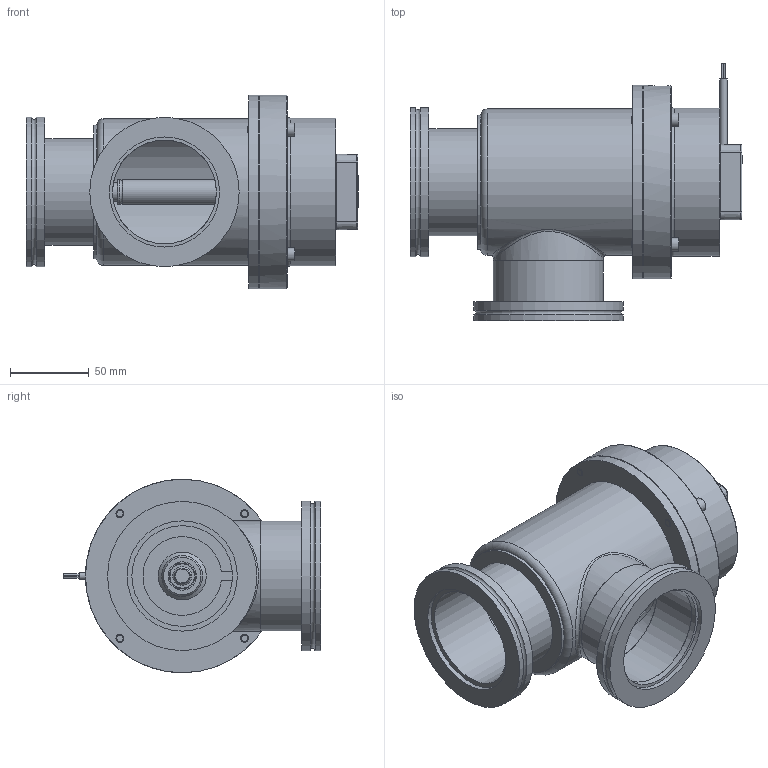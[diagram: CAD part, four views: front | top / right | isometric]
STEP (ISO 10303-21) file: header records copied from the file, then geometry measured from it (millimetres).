
FILE_DESCRIPTION(/* description */ (''),/* implementation_level */ '2;1');
FILE_NAME(/* name */ '1517157277_203.stp',/* time_stamp */ '2013-07-25T07:51:54+02:00',/* author */ (''),/* organization */ (''),/* preprocessor_version */ 'ST-DEVELOPER v11',/* originating_system */ 'SIEMENS PLM Software NX 7.5',/* authorisation */ '');
FILE_SCHEMA (('AP203_CONFIGURATION_CONTROLLED_3D_DESIGN_OF_MECHANICAL_PARTS_AND_ASSEMBLIES_MIM_LF'));
Length unit declared in the file: millimetre
Products named in the file (16): 559132; 547308_17911ID; 547290; 521644; 547368_19967ID; 239888_6.1; 233359; 236204_1.1; 254383; 259415.2; 243267.7; N-6013-443.2; 224796.1; 547281_MODEL; 402922; 703891
Assembly tree (20 placements, depth 3):
  703891
    224796.1  x4
    N-6013-443.2  x2
    243267.7
    259415.2
    402922
      236204_1.1  x2
      233359
      239888_6.1
    254383
    547281_MODEL
      547368_19967ID
      521644
      547290
      547308_17911ID
      559132
Bounding box: 211 x 163.57 x 123 mm (x, y, z)
Volume: 459414.9 mm3; surface area: 232057 mm2
Topology: 26 solids, 26 shells, 586 faces, 1401 edges, 914 vertices
Faces by surface type: plane 332, cylinder 145, cone 66, torus 24, bspline 19
Full cylindrical faces by diameter (mm): 1.4 x8, 3 x6, 3.1 x1, 3.3 x2, 4 x3, 4.16 x4, 4.2 x8, 4.5 x2, 4.6 x2, 4.7 x2, 5 x8, 5.5 x4, 5.6 x2, 7 x1, 7.4 x1, 7.5 x2, 8 x1, 8.5 x4, 8.611 x1, 9 x1, 10.1 x1, 12 x1, 15.975 x3, 16.5 x2, 18.009 x1, 20.45 x1, 26 x1, 30.5 x1, 64 x1, 66 x3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
Entity records: 17313 total; most frequent: CARTESIAN_POINT 3678, DIRECTION 2322, ORIENTED_EDGE 2048, EDGE_CURVE 1024, AXIS2_PLACEMENT_3D 874, VERTEX_POINT 754, EDGE_LOOP 738, LINE 574
